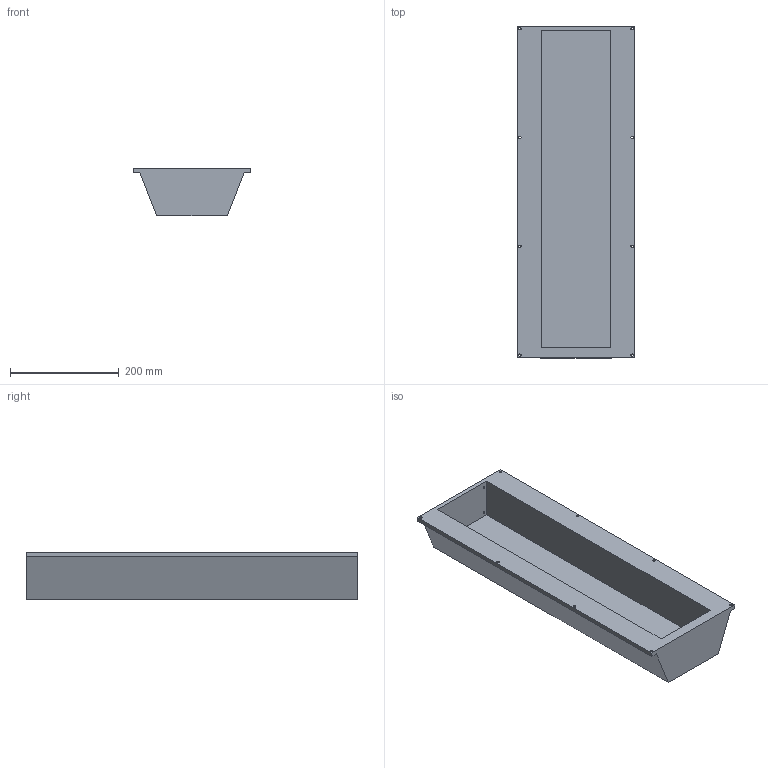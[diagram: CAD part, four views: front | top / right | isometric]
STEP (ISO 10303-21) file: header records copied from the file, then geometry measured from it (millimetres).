
FILE_DESCRIPTION(/* description */ ('STEP AP242','CAx-IF Rec.Pracs.---Representation and Presentation of Product Manufacturing Information (PMI)---4.0---2014-10-13','CAx-IF Rec.Pracs.---3D Tessellated Geometry---0.4---2014-09-14','2;1'),/* implementation_level */ '2;1');
FILE_NAME(/* name */ 'Assembly 1 - Part 1 (1)',/* time_stamp */ '2025-05-18T07:24:53Z',/* author */ (''),/* organization */ (''),/* preprocessor_version */ 'ST-DEVELOPER v20',/* originating_system */ 'ONSHAPE BY PTC INC, 1.198',/* authorisation */ ' ');
FILE_SCHEMA (('AP242_MANAGED_MODEL_BASED_3D_ENGINEERING_MIM_LF { 1 0 10303 442 1 1 4 }'));
Length unit declared in the file: metre
Products named in the file (1): Part 1
Bounding box: 216.22 x 610 x 88 mm (x, y, z)
Volume: 3254231 mm3; surface area: 478435.5 mm2
Topology: 1 solids, 1 shells, 27 faces, 72 edges, 48 vertices
Faces by surface type: plane 15, cylinder 12
Full cylindrical faces by diameter (mm): 4.4 x12
Entity records: 860 total; most frequent: DIRECTION 140, CARTESIAN_POINT 136, ORIENTED_EDGE 120, EDGE_LOOP 64, FACE_BOUND 64, EDGE_CURVE 60, AXIS2_PLACEMENT_3D 52, VERTEX_POINT 48
